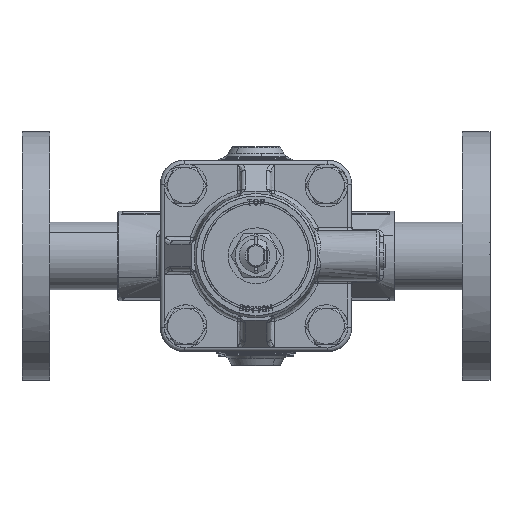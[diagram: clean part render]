
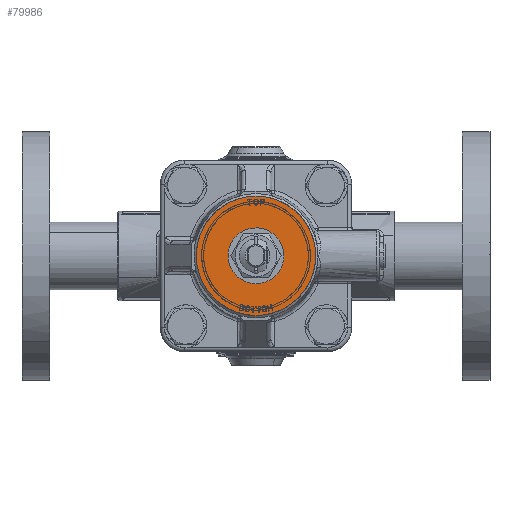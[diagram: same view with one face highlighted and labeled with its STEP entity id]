
A CAD part, top view. The second image highlights one B-rep face of the part: STEP entity #79986.
In plain terms, the highlighted free-form (B-spline) face has degree [1, 1] with [2, 2] control points.
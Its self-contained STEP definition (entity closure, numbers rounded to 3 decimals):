
#79688=CARTESIAN_POINT('',(-20.268,22.118,28.2));
#79689=VERTEX_POINT('',#79688);
#79695=CARTESIAN_POINT('',(0.,30.,28.2));
#79696=VERTEX_POINT('',#79695);
#79697=CARTESIAN_POINT('',(0.,30.,28.2));
#79698=CARTESIAN_POINT('',(-2.666,30.001,28.2));
#79699=CARTESIAN_POINT('',(-6.954,29.425,28.2));
#79700=CARTESIAN_POINT('',(-11.982,27.602,28.2));
#79701=CARTESIAN_POINT('',(-16.201,25.4,28.2));
#79702=CARTESIAN_POINT('',(-18.73,23.528,28.2));
#79703=CARTESIAN_POINT('',(-20.268,22.118,28.2));
#79704=B_SPLINE_CURVE_WITH_KNOTS('',3,(#79697,#79698,#79699,#79700,#79701,#79702,#79703),.UNSPECIFIED.,.F.,.U.,(4,1,1,1,4),(0.,7.997,12.865,15.994,22.253),.UNSPECIFIED.);
#79705=EDGE_CURVE('',#79696,#79689,#79704,.T.);
#79707=CARTESIAN_POINT('',(30.,0.,28.2));
#79708=VERTEX_POINT('',#79707);
#79709=CARTESIAN_POINT('',(30.,0.,28.2));
#79710=CARTESIAN_POINT('',(30.001,2.577,28.2));
#79711=CARTESIAN_POINT('',(29.523,6.258,28.2));
#79712=CARTESIAN_POINT('',(27.631,12.105,28.2));
#79713=CARTESIAN_POINT('',(25.067,16.903,28.2));
#79714=CARTESIAN_POINT('',(21.469,21.124,28.2));
#79715=CARTESIAN_POINT('',(17.932,24.176,28.2));
#79716=CARTESIAN_POINT('',(13.891,26.77,28.2));
#79717=CARTESIAN_POINT('',(7.853,29.271,28.2));
#79718=CARTESIAN_POINT('',(2.945,30.001,28.2));
#79719=CARTESIAN_POINT('',(0.,30.,28.2));
#79720=B_SPLINE_CURVE_WITH_KNOTS('',3,(#79709,#79710,#79711,#79712,#79713,#79714,#79715,#79716,#79717,#79718,#79719),.UNSPECIFIED.,.F.,.U.,(4,1,1,1,1,1,1,1,4),(0.,7.731,11.045,18.408,23.93,27.612,32.398,38.288,47.124),.UNSPECIFIED.);
#79721=EDGE_CURVE('',#79708,#79696,#79720,.T.);
#79723=CARTESIAN_POINT('',(20.268,-22.118,28.2));
#79724=VERTEX_POINT('',#79723);
#79725=CARTESIAN_POINT('',(20.268,-22.118,28.2));
#79726=CARTESIAN_POINT('',(21.7,-20.806,28.2));
#79727=CARTESIAN_POINT('',(24.745,-17.417,28.2));
#79728=CARTESIAN_POINT('',(27.969,-11.588,28.2));
#79729=CARTESIAN_POINT('',(29.683,-5.441,28.2));
#79730=CARTESIAN_POINT('',(30.,-1.684,28.2));
#79731=CARTESIAN_POINT('',(30.,0.,28.2));
#79732=B_SPLINE_CURVE_WITH_KNOTS('',3,(#79725,#79726,#79727,#79728,#79729,#79730,#79731),.UNSPECIFIED.,.F.,.U.,(4,1,1,1,4),(0.,5.829,13.601,19.819,24.871),.UNSPECIFIED.);
#79733=EDGE_CURVE('',#79724,#79708,#79732,.T.);
#79833=CARTESIAN_POINT('',(0.,-30.,28.2));
#79834=VERTEX_POINT('',#79833);
#79835=CARTESIAN_POINT('',(0.,-30.,28.2));
#79836=CARTESIAN_POINT('',(2.086,-30.,28.2));
#79837=CARTESIAN_POINT('',(5.215,-29.672,28.2));
#79838=CARTESIAN_POINT('',(9.813,-28.445,28.2));
#79839=CARTESIAN_POINT('',(14.752,-26.392,28.2));
#79840=CARTESIAN_POINT('',(18.303,-23.92,28.2));
#79841=CARTESIAN_POINT('',(20.268,-22.118,28.2));
#79842=B_SPLINE_CURVE_WITH_KNOTS('',3,(#79835,#79836,#79837,#79838,#79839,#79840,#79841),.UNSPECIFIED.,.F.,.U.,(4,1,1,1,4),(0.,6.259,9.388,14.256,22.253),.UNSPECIFIED.);
#79843=EDGE_CURVE('',#79834,#79724,#79842,.T.);
#79845=CARTESIAN_POINT('',(-30.,0.,28.2));
#79846=VERTEX_POINT('',#79845);
#79847=CARTESIAN_POINT('',(-30.,0.,28.2));
#79848=CARTESIAN_POINT('',(-30.,-2.209,28.2));
#79849=CARTESIAN_POINT('',(-29.483,-6.872,28.2));
#79850=CARTESIAN_POINT('',(-27.525,-12.344,28.2));
#79851=CARTESIAN_POINT('',(-24.892,-16.926,28.2));
#79852=CARTESIAN_POINT('',(-22.164,-20.422,28.2));
#79853=CARTESIAN_POINT('',(-18.445,-23.834,28.2));
#79854=CARTESIAN_POINT('',(-14.005,-26.722,28.2));
#79855=CARTESIAN_POINT('',(-7.853,-29.271,28.2));
#79856=CARTESIAN_POINT('',(-2.945,-30.001,28.2));
#79857=CARTESIAN_POINT('',(0.,-30.,28.2));
#79858=B_SPLINE_CURVE_WITH_KNOTS('',3,(#79847,#79848,#79849,#79850,#79851,#79852,#79853,#79854,#79855,#79856,#79857),.UNSPECIFIED.,.F.,.U.,(4,1,1,1,1,1,1,1,4),(0.,6.627,13.99,17.303,22.458,27.244,32.398,38.288,47.124),.UNSPECIFIED.);
#79859=EDGE_CURVE('',#79846,#79834,#79858,.T.);
#79861=CARTESIAN_POINT('',(-20.268,22.118,28.2));
#79862=CARTESIAN_POINT('',(-21.892,20.631,28.2));
#79863=CARTESIAN_POINT('',(-24.38,17.786,28.2));
#79864=CARTESIAN_POINT('',(-27.473,12.521,28.2));
#79865=CARTESIAN_POINT('',(-29.499,6.736,28.2));
#79866=CARTESIAN_POINT('',(-30.,2.202,28.2));
#79867=CARTESIAN_POINT('',(-30.,0.,28.2));
#79868=B_SPLINE_CURVE_WITH_KNOTS('',3,(#79861,#79862,#79863,#79864,#79865,#79866,#79867),.UNSPECIFIED.,.F.,.U.,(4,1,1,1,4),(0.,6.606,11.27,18.265,24.871),.UNSPECIFIED.);
#79869=EDGE_CURVE('',#79689,#79846,#79868,.T.);
#79931=CARTESIAN_POINT('',(32.997,-32.997,28.2));
#79932=CARTESIAN_POINT('',(-32.997,-32.997,28.2));
#79933=CARTESIAN_POINT('',(32.997,32.997,28.2));
#79934=CARTESIAN_POINT('',(-32.997,32.997,28.2));
#79935=B_SPLINE_SURFACE_WITH_KNOTS('',1,1,((#79931,#79933),(#79932,#79934)),.UNSPECIFIED.,.F.,.F.,.U.,(2,2),(2,2),(0.,65.994),(0.,65.994),.UNSPECIFIED.);
#79936=ORIENTED_EDGE('',*,*,#79859,.T.);
#79937=ORIENTED_EDGE('',*,*,#79843,.T.);
#79938=ORIENTED_EDGE('',*,*,#79733,.T.);
#79939=ORIENTED_EDGE('',*,*,#79721,.T.);
#79940=ORIENTED_EDGE('',*,*,#79705,.T.);
#79941=ORIENTED_EDGE('',*,*,#79869,.T.);
#79942=EDGE_LOOP('',(#79936,#79937,#79938,#79939,#79940,#79941));
#79943=FACE_OUTER_BOUND('',#79942,.T.);
#79944=CARTESIAN_POINT('',(-4.989,-5.6,28.2));
#79945=VERTEX_POINT('',#79944);
#79946=CARTESIAN_POINT('',(4.989,-5.6,28.2));
#79947=VERTEX_POINT('',#79946);
#79948=CARTESIAN_POINT('',(-4.989,-5.6,28.2));
#79949=CARTESIAN_POINT('',(4.989,-5.6,28.2));
#79950=QUASI_UNIFORM_CURVE('',1,(#79948,#79949),.UNSPECIFIED.,.F.,.U.);
#79951=EDGE_CURVE('',#79945,#79947,#79950,.T.);
#79952=ORIENTED_EDGE('',*,*,#79951,.F.);
#79953=CARTESIAN_POINT('',(0.,7.5,28.2));
#79954=VERTEX_POINT('',#79953);
#79955=CARTESIAN_POINT('',(0.,7.5,28.2));
#79956=CARTESIAN_POINT('',(-0.896,7.501,28.2));
#79957=CARTESIAN_POINT('',(-2.263,7.252,28.2));
#79958=CARTESIAN_POINT('',(-3.881,6.465,28.2));
#79959=CARTESIAN_POINT('',(-5.256,5.459,28.2));
#79960=CARTESIAN_POINT('',(-6.508,3.954,28.2));
#79961=CARTESIAN_POINT('',(-7.418,1.754,28.2));
#79962=CARTESIAN_POINT('',(-7.592,-0.391,28.2));
#79963=CARTESIAN_POINT('',(-7.154,-2.53,28.2));
#79964=CARTESIAN_POINT('',(-6.297,-4.234,28.2));
#79965=CARTESIAN_POINT('',(-5.411,-5.224,28.2));
#79966=CARTESIAN_POINT('',(-4.989,-5.6,28.2));
#79967=B_SPLINE_CURVE_WITH_KNOTS('',3,(#79955,#79956,#79957,#79958,#79959,#79960,#79961,#79962,#79963,#79964,#79965,#79966),.UNSPECIFIED.,.F.,.U.,(4,1,1,1,1,1,1,1,1,4),(0.,2.687,4.102,5.375,7.779,9.901,12.446,14.144,16.407,18.104),.UNSPECIFIED.);
#79968=EDGE_CURVE('',#79954,#79945,#79967,.T.);
#79969=ORIENTED_EDGE('',*,*,#79968,.F.);
#79970=CARTESIAN_POINT('',(4.989,-5.6,28.2));
#79971=CARTESIAN_POINT('',(5.658,-5.005,28.2));
#79972=CARTESIAN_POINT('',(6.631,-3.759,28.2));
#79973=CARTESIAN_POINT('',(7.453,-1.527,28.2));
#79974=CARTESIAN_POINT('',(7.598,0.856,28.2));
#79975=CARTESIAN_POINT('',(6.977,3.02,28.2));
#79976=CARTESIAN_POINT('',(5.841,4.825,28.2));
#79977=CARTESIAN_POINT('',(4.396,6.209,28.2));
#79978=CARTESIAN_POINT('',(2.357,7.248,28.2));
#79979=CARTESIAN_POINT('',(0.802,7.5,28.2));
#79980=CARTESIAN_POINT('',(0.,7.5,28.2));
#79981=B_SPLINE_CURVE_WITH_KNOTS('',3,(#79970,#79971,#79972,#79973,#79974,#79975,#79976,#79977,#79978,#79979,#79980),.UNSPECIFIED.,.F.,.U.,(4,1,1,1,1,1,1,1,4),(0.,2.687,4.667,7.072,9.759,11.315,13.437,15.7,18.104),.UNSPECIFIED.);
#79982=EDGE_CURVE('',#79947,#79954,#79981,.T.);
#79983=ORIENTED_EDGE('',*,*,#79982,.F.);
#79984=EDGE_LOOP('',(#79952,#79969,#79983));
#79985=FACE_BOUND('',#79984,.T.);
#79986=ADVANCED_FACE('',(#79943,#79985),#79935,.F.);
